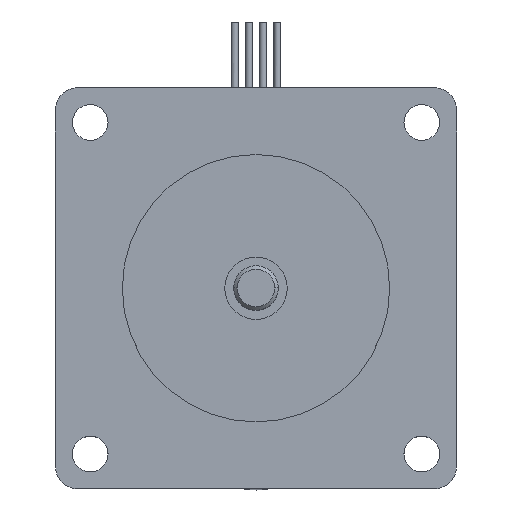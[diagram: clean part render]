
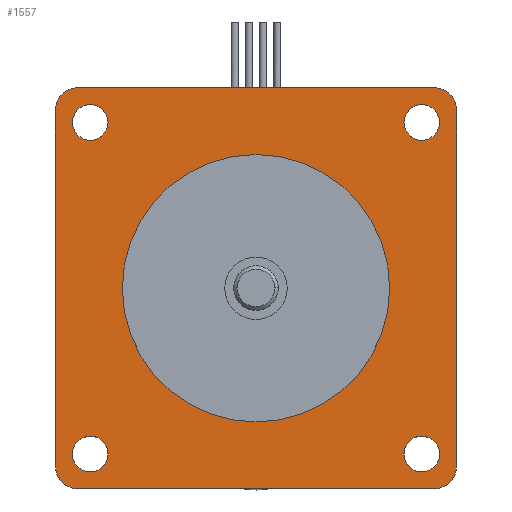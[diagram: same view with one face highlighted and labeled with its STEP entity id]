
A CAD part, top view. The second image highlights one B-rep face of the part: STEP entity #1557.
In plain terms, the highlighted planar face has unit normal (0, 0, 1).
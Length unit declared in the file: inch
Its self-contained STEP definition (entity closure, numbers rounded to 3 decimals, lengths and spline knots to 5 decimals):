
#237=CARTESIAN_POINT('',(-1.03,0.93,4.03));
#238=VERTEX_POINT('',#237);
#254=CARTESIAN_POINT('',(-0.83,0.93,4.03));
#255=VERTEX_POINT('',#254);
#262=CARTESIAN_POINT('',(-0.93,0.93,4.03));
#263=DIRECTION('',(0.0,0.0,-1.0));
#264=DIRECTION('',(-1.0,0.0,0.0));
#265=AXIS2_PLACEMENT_3D('',#262,#263,#264);
#266=CIRCLE('',#265,0.1);
#267=EDGE_CURVE('',#238,#255,#266,.T.);
#279=CARTESIAN_POINT('',(0.93,1.03,4.03));
#280=VERTEX_POINT('',#279);
#296=CARTESIAN_POINT('',(0.93,0.83,4.03));
#297=VERTEX_POINT('',#296);
#304=CARTESIAN_POINT('',(0.93,0.93,4.03));
#305=DIRECTION('',(0.0,0.0,-1.0));
#306=DIRECTION('',(0.0,1.0,0.0));
#307=AXIS2_PLACEMENT_3D('',#304,#305,#306);
#308=CIRCLE('',#307,0.1);
#309=EDGE_CURVE('',#280,#297,#308,.T.);
#321=CARTESIAN_POINT('',(-0.93,-1.03,4.03));
#322=VERTEX_POINT('',#321);
#338=CARTESIAN_POINT('',(-0.93,-0.83,4.03));
#339=VERTEX_POINT('',#338);
#346=CARTESIAN_POINT('',(-0.93,-0.93,4.03));
#347=DIRECTION('',(0.0,0.0,-1.0));
#348=DIRECTION('',(0.0,-1.0,0.0));
#349=AXIS2_PLACEMENT_3D('',#346,#347,#348);
#350=CIRCLE('',#349,0.1);
#351=EDGE_CURVE('',#322,#339,#350,.T.);
#363=CARTESIAN_POINT('',(1.03,-0.93,4.03));
#364=VERTEX_POINT('',#363);
#380=CARTESIAN_POINT('',(0.83,-0.93,4.03));
#381=VERTEX_POINT('',#380);
#388=CARTESIAN_POINT('',(0.93,-0.93,4.03));
#389=DIRECTION('',(0.0,0.0,-1.0));
#390=DIRECTION('',(1.0,0.0,0.0));
#391=AXIS2_PLACEMENT_3D('',#388,#389,#390);
#392=CIRCLE('',#391,0.1);
#393=EDGE_CURVE('',#364,#381,#392,.T.);
#403=CARTESIAN_POINT('',(-0.75,0.,4.03));
#404=VERTEX_POINT('',#403);
#413=CARTESIAN_POINT('',(0.75,0.,4.03));
#414=VERTEX_POINT('',#413);
#415=CARTESIAN_POINT('',(0.0,0.0,4.03));
#416=DIRECTION('',(0.0,0.0,-1.0));
#417=DIRECTION('',(-1.0,0.0,0.0));
#418=AXIS2_PLACEMENT_3D('',#415,#416,#417);
#419=CIRCLE('',#418,0.75);
#420=EDGE_CURVE('',#414,#404,#419,.T.);
#1307=CARTESIAN_POINT('',(-1.125,1.0,4.03));
#1308=VERTEX_POINT('',#1307);
#1315=CARTESIAN_POINT('',(-1.,1.125,4.03));
#1316=VERTEX_POINT('',#1315);
#1317=CARTESIAN_POINT('',(-1.,1.0,4.03));
#1318=DIRECTION('',(0.0,0.0,1.0));
#1319=DIRECTION('',(0.0,1.0,0.0));
#1320=AXIS2_PLACEMENT_3D('',#1317,#1318,#1319);
#1321=CIRCLE('',#1320,0.125);
#1322=EDGE_CURVE('',#1316,#1308,#1321,.T.);
#1341=CARTESIAN_POINT('',(1.0,1.125,4.03));
#1342=VERTEX_POINT('',#1341);
#1343=CARTESIAN_POINT('',(1.0,1.125,4.03));
#1344=DIRECTION('',(-1.0,0.0,0.0));
#1345=VECTOR('',#1344,2.0);
#1346=LINE('',#1343,#1345);
#1347=EDGE_CURVE('',#1342,#1316,#1346,.T.);
#1365=CARTESIAN_POINT('',(-1.125,-1.,4.03));
#1366=VERTEX_POINT('',#1365);
#1373=CARTESIAN_POINT('',(-1.125,1.0,4.03));
#1374=DIRECTION('',(0.0,-1.0,0.0));
#1375=VECTOR('',#1374,2.);
#1376=LINE('',#1373,#1375);
#1377=EDGE_CURVE('',#1308,#1366,#1376,.T.);
#1389=CARTESIAN_POINT('',(-1.,-1.125,4.03));
#1390=VERTEX_POINT('',#1389);
#1397=CARTESIAN_POINT('',(-1.,-1.,4.03));
#1398=DIRECTION('',(0.0,0.0,1.0));
#1399=DIRECTION('',(-1.0,0.0,0.0));
#1400=AXIS2_PLACEMENT_3D('',#1397,#1398,#1399);
#1401=CIRCLE('',#1400,0.125);
#1402=EDGE_CURVE('',#1366,#1390,#1401,.T.);
#1446=CARTESIAN_POINT('',(0.0,0.0,4.03));
#1447=DIRECTION('',(0.0,0.0,-1.0));
#1448=DIRECTION('',(-1.0,0.0,0.0));
#1449=AXIS2_PLACEMENT_3D('',#1446,#1447,#1448);
#1450=CIRCLE('',#1449,0.75);
#1451=EDGE_CURVE('',#404,#414,#1450,.T.);
#1470=CARTESIAN_POINT('',(0.0,0.0,4.03));
#1471=DIRECTION('',(0.0,0.0,1.0));
#1472=DIRECTION('',(1.0,0.0,0.0));
#1473=AXIS2_PLACEMENT_3D('',#1470,#1471,#1472);
#1474=PLANE('',#1473);
#1475=ORIENTED_EDGE('',*,*,#1322,.T.);
#1476=ORIENTED_EDGE('',*,*,#1377,.T.);
#1477=ORIENTED_EDGE('',*,*,#1402,.T.);
#1478=CARTESIAN_POINT('',(1.0,-1.125,4.03));
#1479=VERTEX_POINT('',#1478);
#1480=CARTESIAN_POINT('',(-1.,-1.125,4.03));
#1481=DIRECTION('',(1.0,0.0,0.0));
#1482=VECTOR('',#1481,2.);
#1483=LINE('',#1480,#1482);
#1484=EDGE_CURVE('',#1390,#1479,#1483,.T.);
#1485=ORIENTED_EDGE('',*,*,#1484,.T.);
#1486=CARTESIAN_POINT('',(1.125,-1.,4.03));
#1487=VERTEX_POINT('',#1486);
#1488=CARTESIAN_POINT('',(1.0,-1.,4.03));
#1489=DIRECTION('',(0.0,0.0,1.0));
#1490=DIRECTION('',(0.0,-1.0,0.0));
#1491=AXIS2_PLACEMENT_3D('',#1488,#1489,#1490);
#1492=CIRCLE('',#1491,0.125);
#1493=EDGE_CURVE('',#1479,#1487,#1492,.T.);
#1494=ORIENTED_EDGE('',*,*,#1493,.T.);
#1495=CARTESIAN_POINT('',(1.125,1.0,4.03));
#1496=VERTEX_POINT('',#1495);
#1497=CARTESIAN_POINT('',(1.125,-1.,4.03));
#1498=DIRECTION('',(0.0,1.0,0.0));
#1499=VECTOR('',#1498,2.);
#1500=LINE('',#1497,#1499);
#1501=EDGE_CURVE('',#1487,#1496,#1500,.T.);
#1502=ORIENTED_EDGE('',*,*,#1501,.T.);
#1503=CARTESIAN_POINT('',(1.0,1.0,4.03));
#1504=DIRECTION('',(0.0,0.0,1.0));
#1505=DIRECTION('',(1.0,0.0,0.0));
#1506=AXIS2_PLACEMENT_3D('',#1503,#1504,#1505);
#1507=CIRCLE('',#1506,0.125);
#1508=EDGE_CURVE('',#1496,#1342,#1507,.T.);
#1509=ORIENTED_EDGE('',*,*,#1508,.T.);
#1510=ORIENTED_EDGE('',*,*,#1347,.T.);
#1511=EDGE_LOOP('',(#1475,#1476,#1477,#1485,#1494,#1502,#1509,#1510));
#1512=FACE_OUTER_BOUND('',#1511,.T.);
#1513=CARTESIAN_POINT('',(-0.93,0.93,4.03));
#1514=DIRECTION('',(0.0,0.0,-1.0));
#1515=DIRECTION('',(-1.0,0.0,0.0));
#1516=AXIS2_PLACEMENT_3D('',#1513,#1514,#1515);
#1517=CIRCLE('',#1516,0.1);
#1518=EDGE_CURVE('',#255,#238,#1517,.T.);
#1519=ORIENTED_EDGE('',*,*,#1518,.T.);
#1520=ORIENTED_EDGE('',*,*,#267,.T.);
#1521=EDGE_LOOP('',(#1519,#1520));
#1522=FACE_BOUND('',#1521,.T.);
#1523=CARTESIAN_POINT('',(0.93,0.93,4.03));
#1524=DIRECTION('',(0.0,0.0,-1.0));
#1525=DIRECTION('',(0.0,1.0,0.0));
#1526=AXIS2_PLACEMENT_3D('',#1523,#1524,#1525);
#1527=CIRCLE('',#1526,0.1);
#1528=EDGE_CURVE('',#297,#280,#1527,.T.);
#1529=ORIENTED_EDGE('',*,*,#1528,.T.);
#1530=ORIENTED_EDGE('',*,*,#309,.T.);
#1531=EDGE_LOOP('',(#1529,#1530));
#1532=FACE_BOUND('',#1531,.T.);
#1533=CARTESIAN_POINT('',(-0.93,-0.93,4.03));
#1534=DIRECTION('',(0.0,0.0,-1.0));
#1535=DIRECTION('',(0.0,-1.0,0.0));
#1536=AXIS2_PLACEMENT_3D('',#1533,#1534,#1535);
#1537=CIRCLE('',#1536,0.1);
#1538=EDGE_CURVE('',#339,#322,#1537,.T.);
#1539=ORIENTED_EDGE('',*,*,#1538,.T.);
#1540=ORIENTED_EDGE('',*,*,#351,.T.);
#1541=EDGE_LOOP('',(#1539,#1540));
#1542=FACE_BOUND('',#1541,.T.);
#1543=CARTESIAN_POINT('',(0.93,-0.93,4.03));
#1544=DIRECTION('',(0.0,0.0,-1.0));
#1545=DIRECTION('',(1.0,0.0,0.0));
#1546=AXIS2_PLACEMENT_3D('',#1543,#1544,#1545);
#1547=CIRCLE('',#1546,0.1);
#1548=EDGE_CURVE('',#381,#364,#1547,.T.);
#1549=ORIENTED_EDGE('',*,*,#1548,.T.);
#1550=ORIENTED_EDGE('',*,*,#393,.T.);
#1551=EDGE_LOOP('',(#1549,#1550));
#1552=FACE_BOUND('',#1551,.T.);
#1553=ORIENTED_EDGE('',*,*,#420,.T.);
#1554=ORIENTED_EDGE('',*,*,#1451,.T.);
#1555=EDGE_LOOP('',(#1553,#1554));
#1556=FACE_BOUND('',#1555,.T.);
#1557=ADVANCED_FACE('',(#1512,#1522,#1532,#1542,#1552,#1556),#1474,.T.);
